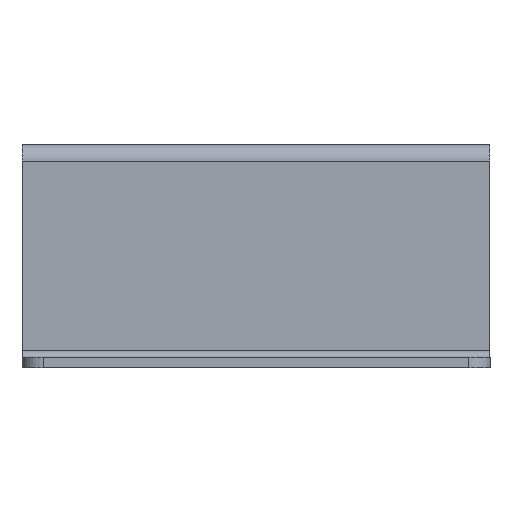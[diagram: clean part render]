
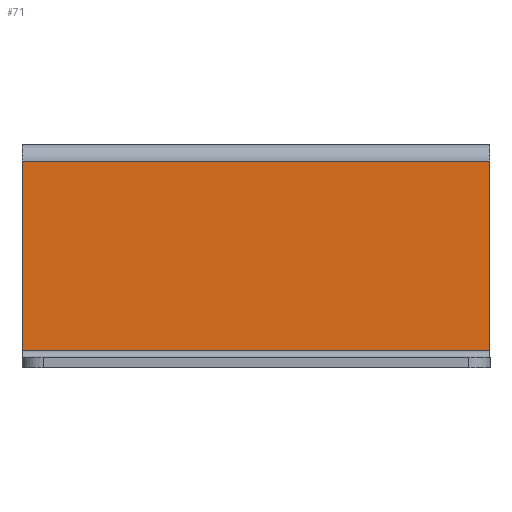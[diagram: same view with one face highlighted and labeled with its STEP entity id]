
A CAD part, left-side view. The second image highlights one B-rep face of the part: STEP entity #71.
In plain terms, the highlighted planar face has unit normal (-1, 0, 0).
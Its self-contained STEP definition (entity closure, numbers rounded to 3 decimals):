
#71 = ADVANCED_FACE( '', ( #168 ), #169, .T. );
#168 = FACE_OUTER_BOUND( '', #295, .T. );
#169 = PLANE( '', #296 );
#295 = EDGE_LOOP( '', ( #455, #456, #457, #458 ) );
#296 = AXIS2_PLACEMENT_3D( '', #459, #460, #461 );
#455 = ORIENTED_EDGE( '', *, *, #736, .F. );
#456 = ORIENTED_EDGE( '', *, *, #737, .T. );
#457 = ORIENTED_EDGE( '', *, *, #738, .T. );
#458 = ORIENTED_EDGE( '', *, *, #739, .T. );
#459 = CARTESIAN_POINT( '', ( -2.5, 0., 0.326 ) );
#460 = DIRECTION( '', ( -1., 0., 0. ) );
#461 = DIRECTION( '', ( 0., 0., 1. ) );
#736 = EDGE_CURVE( '', #890, #891, #892, .T. );
#737 = EDGE_CURVE( '', #890, #893, #894, .T. );
#738 = EDGE_CURVE( '', #893, #895, #896, .T. );
#739 = EDGE_CURVE( '', #895, #891, #897, .T. );
#890 = VERTEX_POINT( '', #1091 );
#891 = VERTEX_POINT( '', #1092 );
#892 = LINE( '', #1093, #1094 );
#893 = VERTEX_POINT( '', #1095 );
#894 = LINE( '', #1096, #1097 );
#895 = VERTEX_POINT( '', #1098 );
#896 = LINE( '', #1099, #1100 );
#897 = LINE( '', #1101, #1102 );
#1091 = CARTESIAN_POINT( '', ( -2.5, 0., -46. ) );
#1092 = CARTESIAN_POINT( '', ( -2.5, 110., -46. ) );
#1093 = CARTESIAN_POINT( '', ( -2.5, 0., -46. ) );
#1094 = VECTOR( '', #1291, 1000. );
#1095 = CARTESIAN_POINT( '', ( -2.5, 0., -1.5 ) );
#1096 = CARTESIAN_POINT( '', ( -2.5, 0., 0.326 ) );
#1097 = VECTOR( '', #1292, 1000. );
#1098 = CARTESIAN_POINT( '', ( -2.5, 110., -1.5 ) );
#1099 = CARTESIAN_POINT( '', ( -2.5, 0., -1.5 ) );
#1100 = VECTOR( '', #1293, 1000. );
#1101 = CARTESIAN_POINT( '', ( -2.5, 110., 0.326 ) );
#1102 = VECTOR( '', #1294, 1000. );
#1291 = DIRECTION( '', ( 0., 1., 0. ) );
#1292 = DIRECTION( '', ( 0., 0., 1. ) );
#1293 = DIRECTION( '', ( 0., 1., 0. ) );
#1294 = DIRECTION( '', ( 0., 0., -1. ) );
